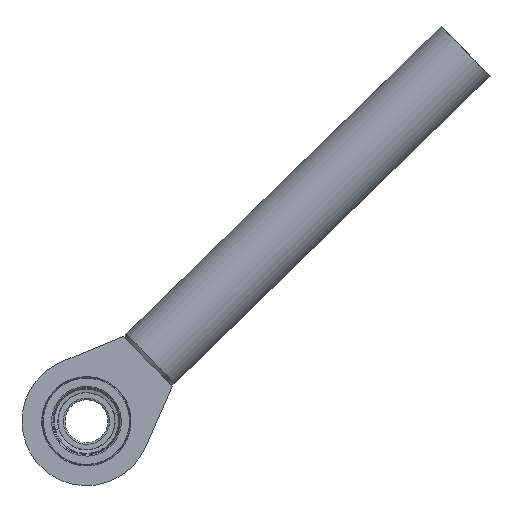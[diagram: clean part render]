
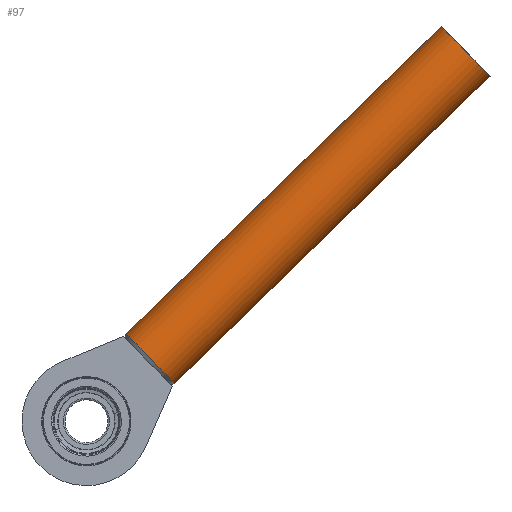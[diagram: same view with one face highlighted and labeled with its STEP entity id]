
A CAD part, front view. The second image highlights one B-rep face of the part: STEP entity #97.
In plain terms, the highlighted cylindrical face has radius 32.5 mm (diameter 65 mm), a partial arc.
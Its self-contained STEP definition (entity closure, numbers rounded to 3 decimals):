
#47=AXIS2_PLACEMENT_3D('Circle Axis2P3D',#45,#46,$) ;
#58=AXIS2_PLACEMENT_3D('Cylinder Axis2P3D',#55,#56,#57) ;
#88=AXIS2_PLACEMENT_3D('Circle Axis2P3D',#86,#87,$) ;
#40=CARTESIAN_POINT('Vertex',(280.772,202.,826.166)) ;
#42=CARTESIAN_POINT('Vertex',(235.383,202.,872.694)) ;
#45=CARTESIAN_POINT('Axis2P3D Location',(258.077,202.,849.43)) ;
#55=CARTESIAN_POINT('Axis2P3D Location',(110.171,202.,705.147)) ;
#60=CARTESIAN_POINT('Line Origine',(88.73,202.,729.633)) ;
#64=CARTESIAN_POINT('Vertex',(-57.924,202.,586.571)) ;
#67=CARTESIAN_POINT('Line Origine',(134.118,202.,683.104)) ;
#71=CARTESIAN_POINT('Vertex',(-12.535,202.,540.043)) ;
#86=CARTESIAN_POINT('Axis2P3D Location',(-35.229,202.,563.307)) ;
#46=DIRECTION('Axis2P3D Direction',(0.716,0.,0.698)) ;
#56=DIRECTION('Axis2P3D Direction',(0.716,0.,0.698)) ;
#57=DIRECTION('Axis2P3D XDirection',(-0.698,0.,0.716)) ;
#61=DIRECTION('Vector Direction',(0.716,0.,0.698)) ;
#68=DIRECTION('Vector Direction',(0.716,0.,0.698)) ;
#87=DIRECTION('Axis2P3D Direction',(0.716,0.,0.698)) ;
#62=VECTOR('Line Direction',#61,1.) ;
#69=VECTOR('Line Direction',#68,1.) ;
#92=ORIENTED_EDGE('',*,*,#73,.T.) ;
#93=ORIENTED_EDGE('',*,*,#49,.F.) ;
#94=ORIENTED_EDGE('',*,*,#66,.F.) ;
#95=ORIENTED_EDGE('',*,*,#90,.T.) ;
#97=ADVANCED_FACE('Pushtype_a.1',(#96),#59,.T.) ;
#48=CIRCLE('generated circle',#47,32.5) ;
#89=CIRCLE('generated circle',#88,32.5) ;
#59=CYLINDRICAL_SURFACE('generated cylinder',#58,32.5) ;
#49=EDGE_CURVE('',#43,#41,#48,.T.) ;
#66=EDGE_CURVE('',#65,#43,#63,.T.) ;
#73=EDGE_CURVE('',#72,#41,#70,.T.) ;
#90=EDGE_CURVE('',#65,#72,#89,.T.) ;
#91=EDGE_LOOP('',(#92,#93,#94,#95)) ;
#96=FACE_OUTER_BOUND('',#91,.T.) ;
#63=LINE('Line',#60,#62) ;
#70=LINE('Line',#67,#69) ;
#41=VERTEX_POINT('',#40) ;
#43=VERTEX_POINT('',#42) ;
#65=VERTEX_POINT('',#64) ;
#72=VERTEX_POINT('',#71) ;
